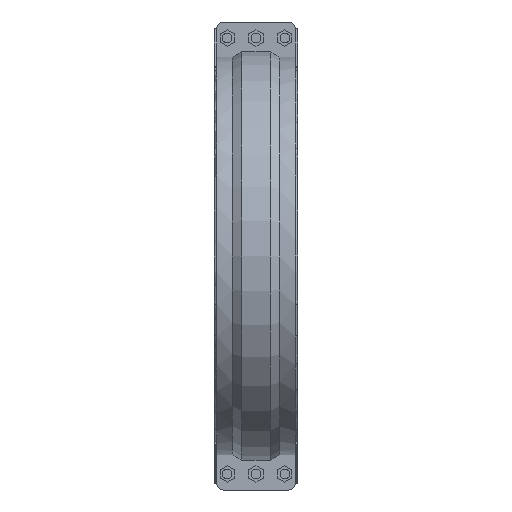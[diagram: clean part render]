
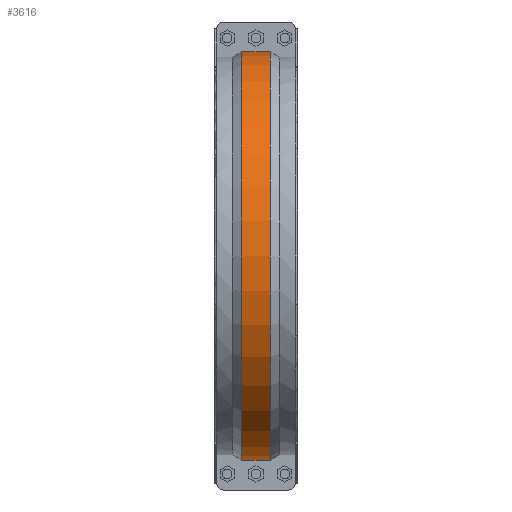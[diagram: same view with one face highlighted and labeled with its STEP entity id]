
A CAD part, front view. The second image highlights one B-rep face of the part: STEP entity #3616.
In plain terms, the highlighted cylindrical face has radius 404.454 mm (diameter 808.908 mm), a partial arc.
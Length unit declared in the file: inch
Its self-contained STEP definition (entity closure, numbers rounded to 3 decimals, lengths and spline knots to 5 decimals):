
#417=FACE_OUTER_BOUND('',#635,.T.);
#635=EDGE_LOOP('',(#3094,#3095,#3096,#3097));
#790=LINE('',#5405,#1133);
#988=LINE('',#6029,#1331);
#1133=VECTOR('',#4324,0.3937);
#1331=VECTOR('',#4844,0.3937);
#1397=CIRCLE('',#3805,15.92339);
#1435=CIRCLE('',#3926,15.92339);
#1577=VERTEX_POINT('',#5400);
#1578=VERTEX_POINT('',#5404);
#1623=VERTEX_POINT('',#5621);
#1750=VERTEX_POINT('',#6025);
#1949=EDGE_CURVE('',#1578,#1577,#790,.T.);
#2020=EDGE_CURVE('',#1623,#1577,#1397,.T.);
#2216=EDGE_CURVE('',#1623,#1750,#988,.T.);
#2223=EDGE_CURVE('',#1750,#1578,#1435,.T.);
#3094=ORIENTED_EDGE('',*,*,#1949,.T.);
#3095=ORIENTED_EDGE('',*,*,#2020,.F.);
#3096=ORIENTED_EDGE('',*,*,#2216,.T.);
#3097=ORIENTED_EDGE('',*,*,#2223,.T.);
#3240=CYLINDRICAL_SURFACE('',#3925,15.92339);
#3616=ADVANCED_FACE('',(#417),#3240,.T.);
#3805=AXIS2_PLACEMENT_3D('',#5625,#4459,#4460);
#3925=AXIS2_PLACEMENT_3D('',#6043,#4863,#4864);
#3926=AXIS2_PLACEMENT_3D('',#6044,#4865,#4866);
#4324=DIRECTION('',(1.,0.,0.));
#4459=DIRECTION('center_axis',(1.,0.,0.));
#4460=DIRECTION('ref_axis',(0.,0.,-1.));
#4844=DIRECTION('',(-1.,0.,0.));
#4863=DIRECTION('center_axis',(1.,0.,0.));
#4864=DIRECTION('ref_axis',(0.,-1.,0.));
#4865=DIRECTION('center_axis',(1.,0.,0.));
#4866=DIRECTION('ref_axis',(0.,0.,-1.));
#5400=CARTESIAN_POINT('',(1.1,-0.375,-15.91897));
#5404=CARTESIAN_POINT('',(-1.1,-0.375,-15.91897));
#5405=CARTESIAN_POINT('',(0.55,-0.375,-15.91897));
#5621=CARTESIAN_POINT('',(1.1,-0.375,15.91897));
#5625=CARTESIAN_POINT('Origin',(1.1,0.,0.));
#6025=CARTESIAN_POINT('',(-1.1,-0.375,15.91897));
#6029=CARTESIAN_POINT('',(0.55,-0.375,15.91897));
#6043=CARTESIAN_POINT('Origin',(0.55,0.,0.));
#6044=CARTESIAN_POINT('Origin',(-1.1,0.,0.));
